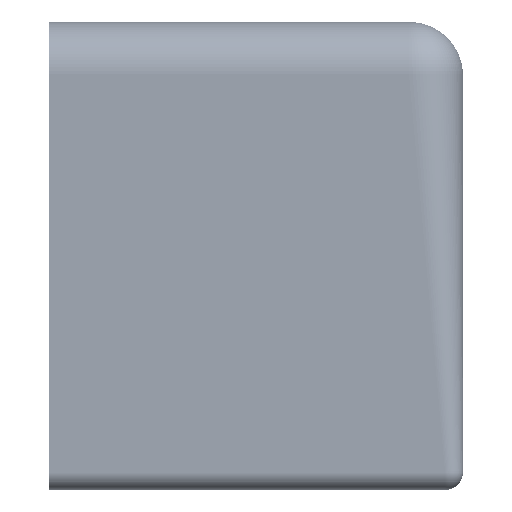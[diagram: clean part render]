
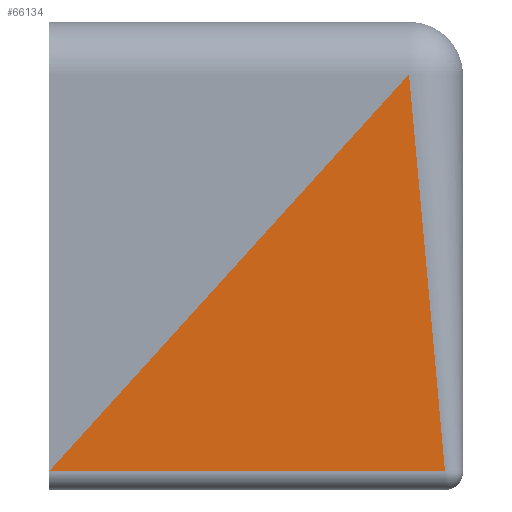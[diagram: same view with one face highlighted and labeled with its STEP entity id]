
A CAD part, left-side view. The second image highlights one B-rep face of the part: STEP entity #66134.
In plain terms, the highlighted planar face has unit normal (-1, 0, 0).
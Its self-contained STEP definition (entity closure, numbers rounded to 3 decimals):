
#313=CARTESIAN_POINT('',(-59.995,-30.0,69.295));
#314=VERTEX_POINT('',#313);
#2789=CARTESIAN_POINT('',(-59.998,30.0,3.098));
#2790=VERTEX_POINT('',#2789);
#2791=CARTESIAN_POINT('',(-59.998,-36.0,3.098));
#2792=VERTEX_POINT('',#2791);
#66099=DIRECTION('',(0.,0.672,-0.741));
#66100=VECTOR('',#66099,89.342);
#66101=LINE('',#313,#66100);
#66102=EDGE_CURVE('',#314,#2790,#66101,.T.);
#66117=ORIENTED_EDGE('',*,*,#66102,.T.);
#66118=DIRECTION('',(0.0,-1.0,0.0));
#66119=VECTOR('',#66118,66.0);
#66120=LINE('',#2789,#66119);
#66121=EDGE_CURVE('',#2790,#2792,#66120,.T.);
#66122=ORIENTED_EDGE('',*,*,#66121,.T.);
#66123=DIRECTION('',(0.,-0.09,-0.996));
#66124=VECTOR('',#66123,66.468);
#66125=LINE('',#313,#66124);
#66126=EDGE_CURVE('',#314,#2792,#66125,.T.);
#66127=ORIENTED_EDGE('',*,*,#66126,.F.);
#66128=EDGE_LOOP('',(#66117,#66122,#66127));
#66129=FACE_OUTER_BOUND('',#66128,.T.);
#66130=DIRECTION('',(-1.0,0.0,0.));
#66131=DIRECTION('',(0.,0.0,-1.0));
#66132=AXIS2_PLACEMENT_3D('',#313,#66130,#66131);
#66133=PLANE('',#66132);
#66134=ADVANCED_FACE('',(#66129),#66133,.T.);
